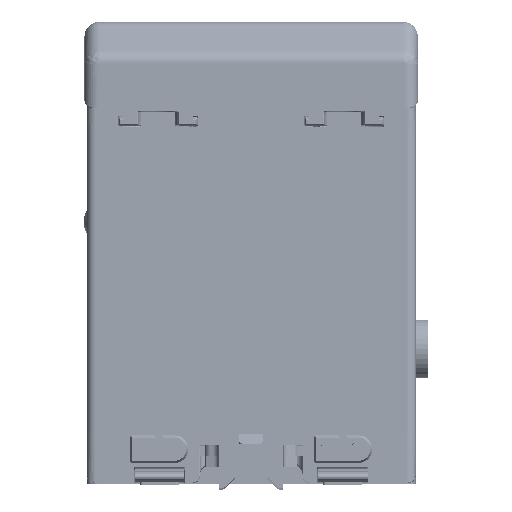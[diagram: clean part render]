
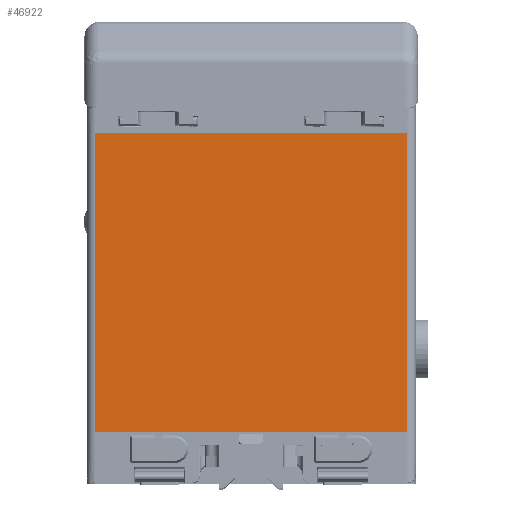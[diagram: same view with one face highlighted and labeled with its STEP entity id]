
A CAD part, top view. The second image highlights one B-rep face of the part: STEP entity #46922.
In plain terms, the highlighted planar face has unit normal (0, 0, 1) as drawn and (1, 0, 0) by its records, which use the part's own axes.
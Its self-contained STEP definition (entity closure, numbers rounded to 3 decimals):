
#1993 = CARTESIAN_POINT ( 'NONE',  ( 27.371, 71., 37. ) ) ;
#10454 = CARTESIAN_POINT ( 'NONE',  ( 27.371, 71., -37. ) ) ;
#12783 = EDGE_CURVE ( 'NONE', #29169, #38109, #147466, .T. ) ;
#14450 = EDGE_CURVE ( 'NONE', #79974, #105648, #100877, .T. ) ;
#15433 = VECTOR ( 'NONE', #133827, 1000. ) ;
#18366 = VECTOR ( 'NONE', #53520, 1000. ) ;
#19677 = PLANE ( 'NONE',  #34434 ) ;
#29169 = VERTEX_POINT ( 'NONE', #91918 ) ;
#33301 = CARTESIAN_POINT ( 'NONE',  ( 27.371, 0., -37. ) ) ;
#34434 = AXIS2_PLACEMENT_3D ( 'NONE', #10454, #78559, #80071 ) ;
#38109 = VERTEX_POINT ( 'NONE', #111150 ) ;
#46922 = ADVANCED_FACE ( 'NONE', ( #66369 ), #19677, .F. ) ;
#52952 = VECTOR ( 'NONE', #71544, 1000. ) ;
#53520 = DIRECTION ( 'NONE',  ( 0., 0., -1. ) ) ;
#54283 = LINE ( 'NONE', #124688, #18366 ) ;
#58528 = ORIENTED_EDGE ( 'NONE', *, *, #149604, .F. ) ;
#66369 = FACE_OUTER_BOUND ( 'NONE', #75506, .T. ) ;
#71544 = DIRECTION ( 'NONE',  ( 0., 0., -1. ) ) ;
#74338 = VECTOR ( 'NONE', #122946, 1000. ) ;
#75506 = EDGE_LOOP ( 'NONE', ( #101569, #81164, #58528, #124663 ) ) ;
#78559 = DIRECTION ( 'NONE',  ( -1., 0., 0. ) ) ;
#79974 = VERTEX_POINT ( 'NONE', #1993 ) ;
#80071 = DIRECTION ( 'NONE',  ( 0., 0., 1. ) ) ;
#81164 = ORIENTED_EDGE ( 'NONE', *, *, #12783, .F. ) ;
#91918 = CARTESIAN_POINT ( 'NONE',  ( 27.371, 71., -37. ) ) ;
#100877 = LINE ( 'NONE', #113139, #15433 ) ;
#101569 = ORIENTED_EDGE ( 'NONE', *, *, #112432, .T. ) ;
#105648 = VERTEX_POINT ( 'NONE', #123250 ) ;
#111150 = CARTESIAN_POINT ( 'NONE',  ( 27.371, 0., -37. ) ) ;
#111473 = CARTESIAN_POINT ( 'NONE',  ( 27.371, 71., -37. ) ) ;
#112432 = EDGE_CURVE ( 'NONE', #105648, #38109, #136678, .T. ) ;
#113139 = CARTESIAN_POINT ( 'NONE',  ( 27.371, 71., 37. ) ) ;
#122946 = DIRECTION ( 'NONE',  ( 0., -1., 0. ) ) ;
#123250 = CARTESIAN_POINT ( 'NONE',  ( 27.371, 0., 37. ) ) ;
#124663 = ORIENTED_EDGE ( 'NONE', *, *, #14450, .T. ) ;
#124688 = CARTESIAN_POINT ( 'NONE',  ( 27.371, 71., -37. ) ) ;
#133827 = DIRECTION ( 'NONE',  ( 0., -1., 0. ) ) ;
#136678 = LINE ( 'NONE', #33301, #52952 ) ;
#147466 = LINE ( 'NONE', #111473, #74338 ) ;
#149604 = EDGE_CURVE ( 'NONE', #79974, #29169, #54283, .T. ) ;
